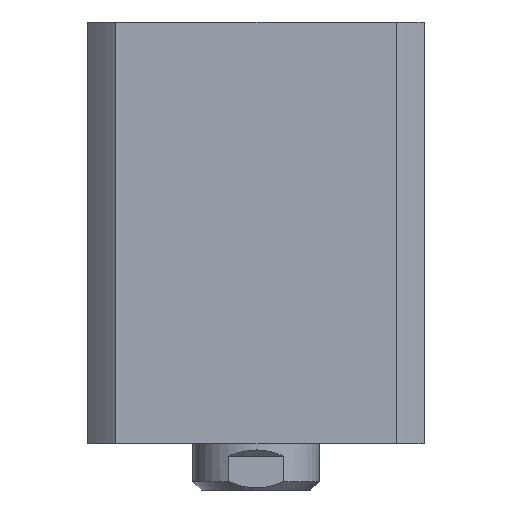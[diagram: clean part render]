
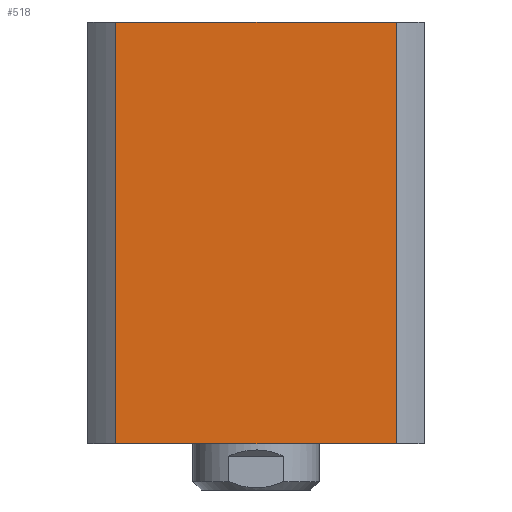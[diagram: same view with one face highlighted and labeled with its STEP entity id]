
A CAD part, left-side view. The second image highlights one B-rep face of the part: STEP entity #518.
In plain terms, the highlighted planar face has unit normal (-1, 0, 0).
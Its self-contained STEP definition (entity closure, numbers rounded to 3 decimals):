
#110 = LINE ( 'NONE', #12493, #4376 ) ;
#518 = ADVANCED_FACE ( 'NONE', ( #2247 ), #12436, .F. ) ;
#830 = CARTESIAN_POINT ( 'NONE',  ( -40., -33.226, 50. ) ) ;
#1183 = VERTEX_POINT ( 'NONE', #12264 ) ;
#1328 = ORIENTED_EDGE ( 'NONE', *, *, #13237, .F. ) ;
#1675 = DIRECTION ( 'NONE',  ( 0., 0., -1. ) ) ;
#1699 = CARTESIAN_POINT ( 'NONE',  ( -40., 33.226, 50. ) ) ;
#2080 = CARTESIAN_POINT ( 'NONE',  ( -40., 33.226, 50. ) ) ;
#2247 = FACE_OUTER_BOUND ( 'NONE', #8139, .T. ) ;
#2763 = CARTESIAN_POINT ( 'NONE',  ( -40., 33.226, 50. ) ) ;
#3508 = VERTEX_POINT ( 'NONE', #4231 ) ;
#3844 = LINE ( 'NONE', #1699, #5357 ) ;
#4231 = CARTESIAN_POINT ( 'NONE',  ( -40., -33.226, -50. ) ) ;
#4376 = VECTOR ( 'NONE', #1675, 1000. ) ;
#5357 = VECTOR ( 'NONE', #8417, 1000. ) ;
#6408 = DIRECTION ( 'NONE',  ( 0., -1., 0. ) ) ;
#6825 = EDGE_CURVE ( 'NONE', #7013, #3508, #110, .T. ) ;
#7013 = VERTEX_POINT ( 'NONE', #830 ) ;
#7332 = EDGE_CURVE ( 'NONE', #1183, #3508, #10284, .T. ) ;
#7409 = VECTOR ( 'NONE', #11415, 1000. ) ;
#8139 = EDGE_LOOP ( 'NONE', ( #9558, #11356, #1328, #8553 ) ) ;
#8354 = AXIS2_PLACEMENT_3D ( 'NONE', #2763, #11358, #13574 ) ;
#8417 = DIRECTION ( 'NONE',  ( 0., 0., -1. ) ) ;
#8553 = ORIENTED_EDGE ( 'NONE', *, *, #10600, .T. ) ;
#8583 = LINE ( 'NONE', #11772, #12609 ) ;
#9558 = ORIENTED_EDGE ( 'NONE', *, *, #7332, .T. ) ;
#10284 = LINE ( 'NONE', #10495, #7409 ) ;
#10495 = CARTESIAN_POINT ( 'NONE',  ( -40., 33.226, -50. ) ) ;
#10600 = EDGE_CURVE ( 'NONE', #11235, #1183, #3844, .T. ) ;
#11235 = VERTEX_POINT ( 'NONE', #2080 ) ;
#11356 = ORIENTED_EDGE ( 'NONE', *, *, #6825, .F. ) ;
#11358 = DIRECTION ( 'NONE',  ( 1., 0., 0. ) ) ;
#11415 = DIRECTION ( 'NONE',  ( 0., -1., 0. ) ) ;
#11772 = CARTESIAN_POINT ( 'NONE',  ( -40., 33.226, 50. ) ) ;
#12264 = CARTESIAN_POINT ( 'NONE',  ( -40., 33.226, -50. ) ) ;
#12436 = PLANE ( 'NONE',  #8354 ) ;
#12493 = CARTESIAN_POINT ( 'NONE',  ( -40., -33.226, 50. ) ) ;
#12609 = VECTOR ( 'NONE', #6408, 1000. ) ;
#13237 = EDGE_CURVE ( 'NONE', #11235, #7013, #8583, .T. ) ;
#13574 = DIRECTION ( 'NONE',  ( 0., 1., 0. ) ) ;
